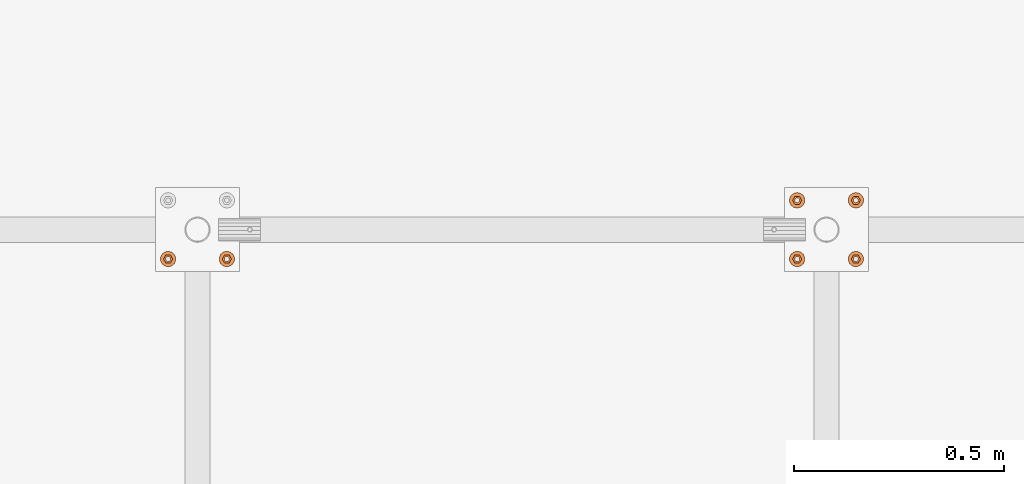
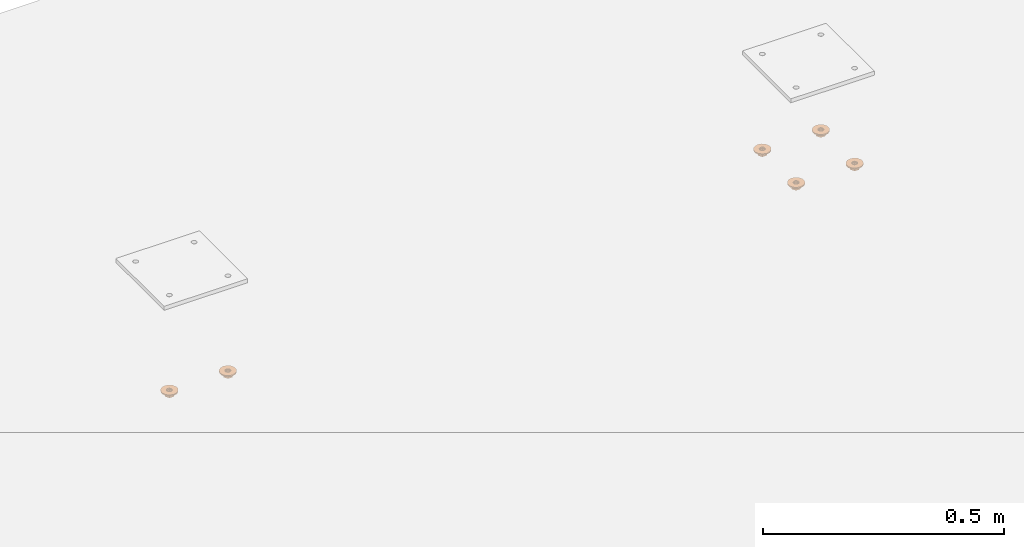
# One storey, part 24 of 30: 12 proxies.
"""IFC2X3 building model written with IfcOpenShell, lengths in millimetres."""

from ifc_helpers import new_model, entity, si_unit, converted_unit, origin_with_axes, place, context, project, spatial, faceted_brep, material, element, save


model = new_model("IFC2X3")

# Units and contexts
model_context = context("Model", 3, precision=1e-09, world=origin_with_axes())
ifc_project = project(units=[si_unit("LENGTHUNIT", "METRE", prefix="MILLI"), si_unit("AREAUNIT", "SQUARE_METRE"), si_unit("VOLUMEUNIT", "CUBIC_METRE"), converted_unit("PLANEANGLEUNIT", "DEGREE", entity("IfcPlaneAngleMeasure", 0.01745329), si_unit("PLANEANGLEUNIT", "RADIAN"), dimensions=[0, 0, 0, 0, 0, 0, 0])], contexts=[model_context])

# Site, building, storey
site_placement = place(None, origin_with_axes())
site = spatial("IfcSite", under=ifc_project, at=site_placement, Name="M?nsinger Stra?e, 81477 M?nchen", CompositionType="ELEMENT")
building_placement = place(site_placement, origin_with_axes())
building = spatial("IfcBuilding", under=site, at=building_placement, Name="Struktur 1", CompositionType="ELEMENT")
storey_placement = place(building_placement, origin_with_axes())
storey = spatial("IfcBuildingStorey", under=building, at=storey_placement, Name="Default Storey", CompositionType="ELEMENT", Elevation=0.0)

# Proxies
ifc_material = material(Name="Kein")
proxy_1_placement = place(None, origin_with_axes())
element("IfcBuildingElementProxy", 1, at=proxy_1_placement, inside=storey, material=ifc_material, ObjectType="-", context=model_context, shape_type="Brep", body=[
    faceted_brep([(2836.315117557, 4427.2632594, 6512.0), (2836.315117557, 4427.2632594, 6502.0), (2839.315117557, 4426.459411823, 6502.0), (2839.315117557, 4426.459411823, 6512.0), (2841.51126998, 4424.2632594, 6502.0), (2841.51126998, 4424.2632594, 6512.0), (2833.315117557, 4426.459411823, 6512.0), (2833.315117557, 4426.459411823, 6502.0), (2830.83029, 4430.7632594, 6512.0), (2825.345462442, 4421.2632594, 6512.0), (2830.83029, 4411.7632594, 6512.0), (2841.799945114, 4411.7632594, 6512.0), (2847.284772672, 4421.2632594, 6512.0), (2841.799945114, 4430.7632594, 6512.0), (2831.118965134, 4424.2632594, 6512.0), (2842.315117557, 4421.2632594, 6512.0), (2841.51126998, 4418.2632594, 6512.0), (2839.315117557, 4416.067106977, 6512.0), (2836.315117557, 4415.2632594, 6512.0), (2833.315117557, 4416.067106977, 6512.0), (2831.118965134, 4418.2632594, 6512.0), (2830.315117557, 4421.2632594, 6512.0), (2825.345462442, 4421.2632594, 6502.0), (2830.83029, 4430.7632594, 6502.0), (2841.799945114, 4430.7632594, 6502.0), (2847.284772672, 4421.2632594, 6502.0), (2841.799945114, 4411.7632594, 6502.0), (2830.83029, 4411.7632594, 6502.0), (2831.118965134, 4424.2632594, 6502.0), (2830.315117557, 4421.2632594, 6502.0), (2831.118965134, 4418.2632594, 6502.0), (2833.315117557, 4416.067106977, 6502.0), (2836.315117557, 4415.2632594, 6502.0), (2839.315117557, 4416.067106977, 6502.0), (2841.51126998, 4418.2632594, 6502.0), (2842.315117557, 4421.2632594, 6502.0)], [[[0, 1, 2, 3]], [[3, 2, 4, 5]], [[1, 0, 6, 7]], [[8, 9, 10, 11, 12, 13], [14, 6, 0, 3, 5, 15, 16, 17, 18, 19, 20, 21]], [[22, 23, 24, 25, 26, 27], [1, 7, 28, 29, 30, 31, 32, 33, 34, 35, 4, 2]], [[7, 6, 14, 28]], [[24, 23, 8, 13]], [[5, 4, 35, 15]], [[13, 12, 25, 24]], [[28, 14, 21, 29]], [[23, 22, 9, 8]], [[15, 35, 34, 16]], [[12, 11, 26, 25]], [[29, 21, 20, 30]], [[22, 27, 10, 9]], [[16, 34, 33, 17]], [[27, 26, 11, 10]], [[30, 20, 19, 31]], [[17, 33, 32, 18]], [[31, 19, 18, 32]]]),
])
proxy_2_placement = place(None, origin_with_axes())
element("IfcBuildingElementProxy", 2, at=proxy_2_placement, inside=storey, material=ifc_material, ObjectType="-", context=model_context, shape_type="Brep", body=[
    faceted_brep([(2850.778999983, 4432.797820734, 6515.0), (2850.778999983, 4432.797820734, 6512.0), (2844.341966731, 4437.931183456, 6512.0), (2844.341966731, 4437.931183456, 6515.0), (2854.351283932, 4417.146622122, 6515.0), (2854.351283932, 4425.379896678, 6515.0), (2836.315117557, 4439.7632594, 6515.0), (2828.288268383, 4437.931183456, 6515.0), (2821.851235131, 4432.797820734, 6515.0), (2818.278951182, 4425.379896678, 6515.0), (2818.278951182, 4417.146622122, 6515.0), (2821.851235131, 4409.728698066, 6515.0), (2828.288268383, 4404.595335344, 6515.0), (2836.315117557, 4402.7632594, 6515.0), (2844.341966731, 4404.595335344, 6515.0), (2850.778999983, 4409.728698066, 6515.0), (2841.944282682, 4424.5132594, 6515.0), (2842.815117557, 4421.2632594, 6515.0), (2841.944282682, 4418.0132594, 6515.0), (2839.565117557, 4415.634094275, 6515.0), (2836.315117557, 4414.7632594, 6515.0), (2833.065117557, 4415.634094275, 6515.0), (2830.685952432, 4418.0132594, 6515.0), (2829.815117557, 4421.2632594, 6515.0), (2830.685952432, 4424.5132594, 6515.0), (2833.065117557, 4426.892424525, 6515.0), (2836.315117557, 4427.7632594, 6515.0), (2839.565117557, 4426.892424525, 6515.0), (2828.288268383, 4437.931183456, 6512.0), (2836.315117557, 4439.7632594, 6512.0), (2854.351283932, 4425.379896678, 6512.0), (2854.351283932, 4417.146622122, 6512.0), (2850.778999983, 4409.728698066, 6512.0), (2844.341966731, 4404.595335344, 6512.0), (2836.315117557, 4402.7632594, 6512.0), (2828.288268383, 4404.595335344, 6512.0), (2821.851235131, 4409.728698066, 6512.0), (2818.278951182, 4417.146622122, 6512.0), (2818.278951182, 4425.379896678, 6512.0), (2821.851235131, 4432.797820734, 6512.0), (2836.315117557, 4427.7632594, 6512.0), (2833.065117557, 4426.892424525, 6512.0), (2830.685952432, 4424.5132594, 6512.0), (2829.815117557, 4421.2632594, 6512.0), (2830.685952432, 4418.0132594, 6512.0), (2833.065117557, 4415.634094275, 6512.0), (2836.315117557, 4414.7632594, 6512.0), (2839.565117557, 4415.634094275, 6512.0), (2841.944282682, 4418.0132594, 6512.0), (2842.815117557, 4421.2632594, 6512.0), (2841.944282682, 4424.5132594, 6512.0), (2839.565117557, 4426.892424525, 6512.0)], [[[0, 1, 2, 3]], [[4, 5, 0, 3, 6, 7, 8, 9, 10, 11, 12, 13, 14, 15], [16, 17, 18, 19, 20, 21, 22, 23, 24, 25, 26, 27]], [[28, 29, 2, 1, 30, 31, 32, 33, 34, 35, 36, 37, 38, 39], [40, 41, 42, 43, 44, 45, 46, 47, 48, 49, 50, 51]], [[1, 0, 5, 30]], [[27, 51, 50, 16]], [[51, 27, 26, 40]], [[3, 2, 29, 6]], [[30, 5, 4, 31]], [[16, 50, 49, 17]], [[40, 26, 25, 41]], [[6, 29, 28, 7]], [[31, 4, 15, 32]], [[17, 49, 48, 18]], [[41, 25, 24, 42]], [[7, 28, 39, 8]], [[32, 15, 14, 33]], [[18, 48, 47, 19]], [[42, 24, 23, 43]], [[8, 39, 38, 9]], [[33, 14, 13, 34]], [[19, 47, 46, 20]], [[22, 44, 43, 23]], [[9, 38, 37, 10]], [[45, 21, 20, 46]], [[44, 22, 21, 45]], [[34, 13, 12, 35]], [[10, 37, 36, 11]], [[35, 12, 11, 36]]]),
])
proxy_3_placement = place(None, origin_with_axes())
element("IfcBuildingElementProxy", 3, at=proxy_3_placement, inside=storey, material=ifc_material, ObjectType="-", context=model_context, shape_type="Brep", body=[
    faceted_brep([(2990.778999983, 4432.797820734, 6515.0), (2990.778999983, 4432.797820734, 6512.0), (2984.341966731, 4437.931183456, 6512.0), (2984.341966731, 4437.931183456, 6515.0), (2994.351283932, 4417.146622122, 6515.0), (2994.351283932, 4425.379896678, 6515.0), (2976.315117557, 4439.7632594, 6515.0), (2968.288268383, 4437.931183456, 6515.0), (2961.851235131, 4432.797820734, 6515.0), (2958.278951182, 4425.379896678, 6515.0), (2958.278951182, 4417.146622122, 6515.0), (2961.851235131, 4409.728698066, 6515.0), (2968.288268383, 4404.595335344, 6515.0), (2976.315117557, 4402.7632594, 6515.0), (2984.341966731, 4404.595335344, 6515.0), (2990.778999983, 4409.728698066, 6515.0), (2981.944282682, 4424.5132594, 6515.0), (2982.815117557, 4421.2632594, 6515.0), (2981.944282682, 4418.0132594, 6515.0), (2979.565117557, 4415.634094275, 6515.0), (2976.315117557, 4414.7632594, 6515.0), (2973.065117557, 4415.634094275, 6515.0), (2970.685952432, 4418.0132594, 6515.0), (2969.815117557, 4421.2632594, 6515.0), (2970.685952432, 4424.5132594, 6515.0), (2973.065117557, 4426.892424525, 6515.0), (2976.315117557, 4427.7632594, 6515.0), (2979.565117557, 4426.892424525, 6515.0), (2968.288268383, 4437.931183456, 6512.0), (2976.315117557, 4439.7632594, 6512.0), (2994.351283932, 4425.379896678, 6512.0), (2994.351283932, 4417.146622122, 6512.0), (2990.778999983, 4409.728698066, 6512.0), (2984.341966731, 4404.595335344, 6512.0), (2976.315117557, 4402.7632594, 6512.0), (2968.288268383, 4404.595335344, 6512.0), (2961.851235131, 4409.728698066, 6512.0), (2958.278951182, 4417.146622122, 6512.0), (2958.278951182, 4425.379896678, 6512.0), (2961.851235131, 4432.797820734, 6512.0), (2976.315117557, 4427.7632594, 6512.0), (2973.065117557, 4426.892424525, 6512.0), (2970.685952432, 4424.5132594, 6512.0), (2969.815117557, 4421.2632594, 6512.0), (2970.685952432, 4418.0132594, 6512.0), (2973.065117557, 4415.634094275, 6512.0), (2976.315117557, 4414.7632594, 6512.0), (2979.565117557, 4415.634094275, 6512.0), (2981.944282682, 4418.0132594, 6512.0), (2982.815117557, 4421.2632594, 6512.0), (2981.944282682, 4424.5132594, 6512.0), (2979.565117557, 4426.892424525, 6512.0)], [[[0, 1, 2, 3]], [[4, 5, 0, 3, 6, 7, 8, 9, 10, 11, 12, 13, 14, 15], [16, 17, 18, 19, 20, 21, 22, 23, 24, 25, 26, 27]], [[28, 29, 2, 1, 30, 31, 32, 33, 34, 35, 36, 37, 38, 39], [40, 41, 42, 43, 44, 45, 46, 47, 48, 49, 50, 51]], [[1, 0, 5, 30]], [[27, 51, 50, 16]], [[51, 27, 26, 40]], [[3, 2, 29, 6]], [[30, 5, 4, 31]], [[16, 50, 49, 17]], [[40, 26, 25, 41]], [[6, 29, 28, 7]], [[31, 4, 15, 32]], [[17, 49, 48, 18]], [[41, 25, 24, 42]], [[7, 28, 39, 8]], [[32, 15, 14, 33]], [[18, 48, 47, 19]], [[42, 24, 23, 43]], [[8, 39, 38, 9]], [[33, 14, 13, 34]], [[19, 47, 46, 20]], [[22, 44, 43, 23]], [[9, 38, 37, 10]], [[45, 21, 20, 46]], [[44, 22, 21, 45]], [[34, 13, 12, 35]], [[10, 37, 36, 11]], [[35, 12, 11, 36]]]),
])
proxy_4_placement = place(None, origin_with_axes())
element("IfcBuildingElementProxy", 4, at=proxy_4_placement, inside=storey, material=ifc_material, ObjectType="-", context=model_context, shape_type="Brep", body=[
    faceted_brep([(2976.315117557, 4427.2632594, 6512.0), (2976.315117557, 4427.2632594, 6502.0), (2979.315117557, 4426.459411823, 6502.0), (2979.315117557, 4426.459411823, 6512.0), (2981.51126998, 4424.2632594, 6502.0), (2981.51126998, 4424.2632594, 6512.0), (2973.315117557, 4426.459411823, 6512.0), (2973.315117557, 4426.459411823, 6502.0), (2970.83029, 4430.7632594, 6512.0), (2965.345462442, 4421.2632594, 6512.0), (2970.83029, 4411.7632594, 6512.0), (2981.799945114, 4411.7632594, 6512.0), (2987.284772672, 4421.2632594, 6512.0), (2981.799945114, 4430.7632594, 6512.0), (2971.118965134, 4424.2632594, 6512.0), (2982.315117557, 4421.2632594, 6512.0), (2981.51126998, 4418.2632594, 6512.0), (2979.315117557, 4416.067106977, 6512.0), (2976.315117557, 4415.2632594, 6512.0), (2973.315117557, 4416.067106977, 6512.0), (2971.118965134, 4418.2632594, 6512.0), (2970.315117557, 4421.2632594, 6512.0), (2965.345462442, 4421.2632594, 6502.0), (2970.83029, 4430.7632594, 6502.0), (2981.799945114, 4430.7632594, 6502.0), (2987.284772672, 4421.2632594, 6502.0), (2981.799945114, 4411.7632594, 6502.0), (2970.83029, 4411.7632594, 6502.0), (2971.118965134, 4424.2632594, 6502.0), (2970.315117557, 4421.2632594, 6502.0), (2971.118965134, 4418.2632594, 6502.0), (2973.315117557, 4416.067106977, 6502.0), (2976.315117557, 4415.2632594, 6502.0), (2979.315117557, 4416.067106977, 6502.0), (2981.51126998, 4418.2632594, 6502.0), (2982.315117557, 4421.2632594, 6502.0)], [[[0, 1, 2, 3]], [[3, 2, 4, 5]], [[1, 0, 6, 7]], [[8, 9, 10, 11, 12, 13], [14, 6, 0, 3, 5, 15, 16, 17, 18, 19, 20, 21]], [[22, 23, 24, 25, 26, 27], [1, 7, 28, 29, 30, 31, 32, 33, 34, 35, 4, 2]], [[7, 6, 14, 28]], [[24, 23, 8, 13]], [[5, 4, 35, 15]], [[13, 12, 25, 24]], [[28, 14, 21, 29]], [[23, 22, 9, 8]], [[15, 35, 34, 16]], [[12, 11, 26, 25]], [[29, 21, 20, 30]], [[22, 27, 10, 9]], [[16, 34, 33, 17]], [[27, 26, 11, 10]], [[30, 20, 19, 31]], [[17, 33, 32, 18]], [[31, 19, 18, 32]]]),
])
proxy_5_placement = place(None, origin_with_axes())
element("IfcBuildingElementProxy", 5, at=proxy_5_placement, inside=storey, material=ifc_material, ObjectType="-", context=model_context, shape_type="Brep", body=[
    faceted_brep([(4490.778999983, 4572.797820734, 6515.0), (4490.778999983, 4572.797820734, 6512.0), (4484.341966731, 4577.931183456, 6512.0), (4484.341966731, 4577.931183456, 6515.0), (4494.351283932, 4557.146622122, 6515.0), (4494.351283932, 4565.379896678, 6515.0), (4476.315117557, 4579.7632594, 6515.0), (4468.288268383, 4577.931183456, 6515.0), (4461.851235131, 4572.797820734, 6515.0), (4458.278951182, 4565.379896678, 6515.0), (4458.278951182, 4557.146622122, 6515.0), (4461.851235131, 4549.728698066, 6515.0), (4468.288268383, 4544.595335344, 6515.0), (4476.315117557, 4542.7632594, 6515.0), (4484.341966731, 4544.595335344, 6515.0), (4490.778999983, 4549.728698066, 6515.0), (4481.944282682, 4564.5132594, 6515.0), (4482.815117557, 4561.2632594, 6515.0), (4481.944282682, 4558.0132594, 6515.0), (4479.565117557, 4555.634094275, 6515.0), (4476.315117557, 4554.7632594, 6515.0), (4473.065117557, 4555.634094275, 6515.0), (4470.685952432, 4558.0132594, 6515.0), (4469.815117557, 4561.2632594, 6515.0), (4470.685952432, 4564.5132594, 6515.0), (4473.065117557, 4566.892424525, 6515.0), (4476.315117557, 4567.7632594, 6515.0), (4479.565117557, 4566.892424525, 6515.0), (4468.288268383, 4577.931183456, 6512.0), (4476.315117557, 4579.7632594, 6512.0), (4494.351283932, 4565.379896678, 6512.0), (4494.351283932, 4557.146622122, 6512.0), (4490.778999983, 4549.728698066, 6512.0), (4484.341966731, 4544.595335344, 6512.0), (4476.315117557, 4542.7632594, 6512.0), (4468.288268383, 4544.595335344, 6512.0), (4461.851235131, 4549.728698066, 6512.0), (4458.278951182, 4557.146622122, 6512.0), (4458.278951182, 4565.379896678, 6512.0), (4461.851235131, 4572.797820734, 6512.0), (4476.315117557, 4567.7632594, 6512.0), (4473.065117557, 4566.892424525, 6512.0), (4470.685952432, 4564.5132594, 6512.0), (4469.815117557, 4561.2632594, 6512.0), (4470.685952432, 4558.0132594, 6512.0), (4473.065117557, 4555.634094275, 6512.0), (4476.315117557, 4554.7632594, 6512.0), (4479.565117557, 4555.634094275, 6512.0), (4481.944282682, 4558.0132594, 6512.0), (4482.815117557, 4561.2632594, 6512.0), (4481.944282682, 4564.5132594, 6512.0), (4479.565117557, 4566.892424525, 6512.0)], [[[0, 1, 2, 3]], [[4, 5, 0, 3, 6, 7, 8, 9, 10, 11, 12, 13, 14, 15], [16, 17, 18, 19, 20, 21, 22, 23, 24, 25, 26, 27]], [[28, 29, 2, 1, 30, 31, 32, 33, 34, 35, 36, 37, 38, 39], [40, 41, 42, 43, 44, 45, 46, 47, 48, 49, 50, 51]], [[1, 0, 5, 30]], [[27, 51, 50, 16]], [[51, 27, 26, 40]], [[3, 2, 29, 6]], [[30, 5, 4, 31]], [[16, 50, 49, 17]], [[40, 26, 25, 41]], [[6, 29, 28, 7]], [[31, 4, 15, 32]], [[17, 49, 48, 18]], [[41, 25, 24, 42]], [[7, 28, 39, 8]], [[32, 15, 14, 33]], [[18, 48, 47, 19]], [[42, 24, 23, 43]], [[8, 39, 38, 9]], [[33, 14, 13, 34]], [[19, 47, 46, 20]], [[22, 44, 43, 23]], [[9, 38, 37, 10]], [[45, 21, 20, 46]], [[44, 22, 21, 45]], [[34, 13, 12, 35]], [[10, 37, 36, 11]], [[35, 12, 11, 36]]]),
])
proxy_6_placement = place(None, origin_with_axes())
element("IfcBuildingElementProxy", 6, at=proxy_6_placement, inside=storey, material=ifc_material, ObjectType="-", context=model_context, shape_type="Brep", body=[
    faceted_brep([(4476.315117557, 4567.2632594, 6512.0), (4476.315117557, 4567.2632594, 6502.0), (4479.315117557, 4566.459411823, 6502.0), (4479.315117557, 4566.459411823, 6512.0), (4481.51126998, 4564.2632594, 6502.0), (4481.51126998, 4564.2632594, 6512.0), (4473.315117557, 4566.459411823, 6512.0), (4473.315117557, 4566.459411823, 6502.0), (4470.83029, 4570.7632594, 6512.0), (4465.345462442, 4561.2632594, 6512.0), (4470.83029, 4551.7632594, 6512.0), (4481.799945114, 4551.7632594, 6512.0), (4487.284772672, 4561.2632594, 6512.0), (4481.799945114, 4570.7632594, 6512.0), (4471.118965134, 4564.2632594, 6512.0), (4482.315117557, 4561.2632594, 6512.0), (4481.51126998, 4558.2632594, 6512.0), (4479.315117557, 4556.067106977, 6512.0), (4476.315117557, 4555.2632594, 6512.0), (4473.315117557, 4556.067106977, 6512.0), (4471.118965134, 4558.2632594, 6512.0), (4470.315117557, 4561.2632594, 6512.0), (4465.345462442, 4561.2632594, 6502.0), (4470.83029, 4570.7632594, 6502.0), (4481.799945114, 4570.7632594, 6502.0), (4487.284772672, 4561.2632594, 6502.0), (4481.799945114, 4551.7632594, 6502.0), (4470.83029, 4551.7632594, 6502.0), (4471.118965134, 4564.2632594, 6502.0), (4470.315117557, 4561.2632594, 6502.0), (4471.118965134, 4558.2632594, 6502.0), (4473.315117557, 4556.067106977, 6502.0), (4476.315117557, 4555.2632594, 6502.0), (4479.315117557, 4556.067106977, 6502.0), (4481.51126998, 4558.2632594, 6502.0), (4482.315117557, 4561.2632594, 6502.0)], [[[0, 1, 2, 3]], [[3, 2, 4, 5]], [[1, 0, 6, 7]], [[8, 9, 10, 11, 12, 13], [14, 6, 0, 3, 5, 15, 16, 17, 18, 19, 20, 21]], [[22, 23, 24, 25, 26, 27], [1, 7, 28, 29, 30, 31, 32, 33, 34, 35, 4, 2]], [[7, 6, 14, 28]], [[24, 23, 8, 13]], [[5, 4, 35, 15]], [[13, 12, 25, 24]], [[28, 14, 21, 29]], [[23, 22, 9, 8]], [[15, 35, 34, 16]], [[12, 11, 26, 25]], [[29, 21, 20, 30]], [[22, 27, 10, 9]], [[16, 34, 33, 17]], [[27, 26, 11, 10]], [[30, 20, 19, 31]], [[17, 33, 32, 18]], [[31, 19, 18, 32]]]),
])
proxy_7_placement = place(None, origin_with_axes())
element("IfcBuildingElementProxy", 7, at=proxy_7_placement, inside=storey, material=ifc_material, ObjectType="-", context=model_context, shape_type="Brep", body=[
    faceted_brep([(4476.315117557, 4427.2632594, 6512.0), (4476.315117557, 4427.2632594, 6502.0), (4479.315117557, 4426.459411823, 6502.0), (4479.315117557, 4426.459411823, 6512.0), (4481.51126998, 4424.2632594, 6502.0), (4481.51126998, 4424.2632594, 6512.0), (4473.315117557, 4426.459411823, 6512.0), (4473.315117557, 4426.459411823, 6502.0), (4470.83029, 4430.7632594, 6512.0), (4465.345462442, 4421.2632594, 6512.0), (4470.83029, 4411.7632594, 6512.0), (4481.799945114, 4411.7632594, 6512.0), (4487.284772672, 4421.2632594, 6512.0), (4481.799945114, 4430.7632594, 6512.0), (4471.118965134, 4424.2632594, 6512.0), (4482.315117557, 4421.2632594, 6512.0), (4481.51126998, 4418.2632594, 6512.0), (4479.315117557, 4416.067106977, 6512.0), (4476.315117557, 4415.2632594, 6512.0), (4473.315117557, 4416.067106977, 6512.0), (4471.118965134, 4418.2632594, 6512.0), (4470.315117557, 4421.2632594, 6512.0), (4465.345462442, 4421.2632594, 6502.0), (4470.83029, 4430.7632594, 6502.0), (4481.799945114, 4430.7632594, 6502.0), (4487.284772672, 4421.2632594, 6502.0), (4481.799945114, 4411.7632594, 6502.0), (4470.83029, 4411.7632594, 6502.0), (4471.118965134, 4424.2632594, 6502.0), (4470.315117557, 4421.2632594, 6502.0), (4471.118965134, 4418.2632594, 6502.0), (4473.315117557, 4416.067106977, 6502.0), (4476.315117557, 4415.2632594, 6502.0), (4479.315117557, 4416.067106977, 6502.0), (4481.51126998, 4418.2632594, 6502.0), (4482.315117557, 4421.2632594, 6502.0)], [[[0, 1, 2, 3]], [[3, 2, 4, 5]], [[1, 0, 6, 7]], [[8, 9, 10, 11, 12, 13], [14, 6, 0, 3, 5, 15, 16, 17, 18, 19, 20, 21]], [[22, 23, 24, 25, 26, 27], [1, 7, 28, 29, 30, 31, 32, 33, 34, 35, 4, 2]], [[7, 6, 14, 28]], [[24, 23, 8, 13]], [[5, 4, 35, 15]], [[13, 12, 25, 24]], [[28, 14, 21, 29]], [[23, 22, 9, 8]], [[15, 35, 34, 16]], [[12, 11, 26, 25]], [[29, 21, 20, 30]], [[22, 27, 10, 9]], [[16, 34, 33, 17]], [[27, 26, 11, 10]], [[30, 20, 19, 31]], [[17, 33, 32, 18]], [[31, 19, 18, 32]]]),
])
proxy_8_placement = place(None, origin_with_axes())
element("IfcBuildingElementProxy", 8, at=proxy_8_placement, inside=storey, material=ifc_material, ObjectType="-", context=model_context, shape_type="Brep", body=[
    faceted_brep([(4490.778999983, 4432.797820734, 6515.0), (4490.778999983, 4432.797820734, 6512.0), (4484.341966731, 4437.931183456, 6512.0), (4484.341966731, 4437.931183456, 6515.0), (4494.351283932, 4417.146622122, 6515.0), (4494.351283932, 4425.379896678, 6515.0), (4476.315117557, 4439.7632594, 6515.0), (4468.288268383, 4437.931183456, 6515.0), (4461.851235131, 4432.797820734, 6515.0), (4458.278951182, 4425.379896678, 6515.0), (4458.278951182, 4417.146622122, 6515.0), (4461.851235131, 4409.728698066, 6515.0), (4468.288268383, 4404.595335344, 6515.0), (4476.315117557, 4402.7632594, 6515.0), (4484.341966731, 4404.595335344, 6515.0), (4490.778999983, 4409.728698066, 6515.0), (4481.944282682, 4424.5132594, 6515.0), (4482.815117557, 4421.2632594, 6515.0), (4481.944282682, 4418.0132594, 6515.0), (4479.565117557, 4415.634094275, 6515.0), (4476.315117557, 4414.7632594, 6515.0), (4473.065117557, 4415.634094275, 6515.0), (4470.685952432, 4418.0132594, 6515.0), (4469.815117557, 4421.2632594, 6515.0), (4470.685952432, 4424.5132594, 6515.0), (4473.065117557, 4426.892424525, 6515.0), (4476.315117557, 4427.7632594, 6515.0), (4479.565117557, 4426.892424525, 6515.0), (4468.288268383, 4437.931183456, 6512.0), (4476.315117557, 4439.7632594, 6512.0), (4494.351283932, 4425.379896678, 6512.0), (4494.351283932, 4417.146622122, 6512.0), (4490.778999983, 4409.728698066, 6512.0), (4484.341966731, 4404.595335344, 6512.0), (4476.315117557, 4402.7632594, 6512.0), (4468.288268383, 4404.595335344, 6512.0), (4461.851235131, 4409.728698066, 6512.0), (4458.278951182, 4417.146622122, 6512.0), (4458.278951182, 4425.379896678, 6512.0), (4461.851235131, 4432.797820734, 6512.0), (4476.315117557, 4427.7632594, 6512.0), (4473.065117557, 4426.892424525, 6512.0), (4470.685952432, 4424.5132594, 6512.0), (4469.815117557, 4421.2632594, 6512.0), (4470.685952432, 4418.0132594, 6512.0), (4473.065117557, 4415.634094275, 6512.0), (4476.315117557, 4414.7632594, 6512.0), (4479.565117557, 4415.634094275, 6512.0), (4481.944282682, 4418.0132594, 6512.0), (4482.815117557, 4421.2632594, 6512.0), (4481.944282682, 4424.5132594, 6512.0), (4479.565117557, 4426.892424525, 6512.0)], [[[0, 1, 2, 3]], [[4, 5, 0, 3, 6, 7, 8, 9, 10, 11, 12, 13, 14, 15], [16, 17, 18, 19, 20, 21, 22, 23, 24, 25, 26, 27]], [[28, 29, 2, 1, 30, 31, 32, 33, 34, 35, 36, 37, 38, 39], [40, 41, 42, 43, 44, 45, 46, 47, 48, 49, 50, 51]], [[1, 0, 5, 30]], [[27, 51, 50, 16]], [[51, 27, 26, 40]], [[3, 2, 29, 6]], [[30, 5, 4, 31]], [[16, 50, 49, 17]], [[40, 26, 25, 41]], [[6, 29, 28, 7]], [[31, 4, 15, 32]], [[17, 49, 48, 18]], [[41, 25, 24, 42]], [[7, 28, 39, 8]], [[32, 15, 14, 33]], [[18, 48, 47, 19]], [[42, 24, 23, 43]], [[8, 39, 38, 9]], [[33, 14, 13, 34]], [[19, 47, 46, 20]], [[22, 44, 43, 23]], [[9, 38, 37, 10]], [[45, 21, 20, 46]], [[44, 22, 21, 45]], [[34, 13, 12, 35]], [[10, 37, 36, 11]], [[35, 12, 11, 36]]]),
])
proxy_9_placement = place(None, origin_with_axes())
element("IfcBuildingElementProxy", 9, at=proxy_9_placement, inside=storey, material=ifc_material, ObjectType="-", context=model_context, shape_type="Brep", body=[
    faceted_brep([(4350.778999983, 4432.797820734, 6515.0), (4350.778999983, 4432.797820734, 6512.0), (4344.341966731, 4437.931183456, 6512.0), (4344.341966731, 4437.931183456, 6515.0), (4354.351283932, 4417.146622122, 6515.0), (4354.351283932, 4425.379896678, 6515.0), (4336.315117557, 4439.7632594, 6515.0), (4328.288268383, 4437.931183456, 6515.0), (4321.851235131, 4432.797820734, 6515.0), (4318.278951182, 4425.379896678, 6515.0), (4318.278951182, 4417.146622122, 6515.0), (4321.851235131, 4409.728698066, 6515.0), (4328.288268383, 4404.595335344, 6515.0), (4336.315117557, 4402.7632594, 6515.0), (4344.341966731, 4404.595335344, 6515.0), (4350.778999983, 4409.728698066, 6515.0), (4341.944282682, 4424.5132594, 6515.0), (4342.815117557, 4421.2632594, 6515.0), (4341.944282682, 4418.0132594, 6515.0), (4339.565117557, 4415.634094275, 6515.0), (4336.315117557, 4414.7632594, 6515.0), (4333.065117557, 4415.634094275, 6515.0), (4330.685952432, 4418.0132594, 6515.0), (4329.815117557, 4421.2632594, 6515.0), (4330.685952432, 4424.5132594, 6515.0), (4333.065117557, 4426.892424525, 6515.0), (4336.315117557, 4427.7632594, 6515.0), (4339.565117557, 4426.892424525, 6515.0), (4328.288268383, 4437.931183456, 6512.0), (4336.315117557, 4439.7632594, 6512.0), (4354.351283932, 4425.379896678, 6512.0), (4354.351283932, 4417.146622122, 6512.0), (4350.778999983, 4409.728698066, 6512.0), (4344.341966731, 4404.595335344, 6512.0), (4336.315117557, 4402.7632594, 6512.0), (4328.288268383, 4404.595335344, 6512.0), (4321.851235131, 4409.728698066, 6512.0), (4318.278951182, 4417.146622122, 6512.0), (4318.278951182, 4425.379896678, 6512.0), (4321.851235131, 4432.797820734, 6512.0), (4336.315117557, 4427.7632594, 6512.0), (4333.065117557, 4426.892424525, 6512.0), (4330.685952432, 4424.5132594, 6512.0), (4329.815117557, 4421.2632594, 6512.0), (4330.685952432, 4418.0132594, 6512.0), (4333.065117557, 4415.634094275, 6512.0), (4336.315117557, 4414.7632594, 6512.0), (4339.565117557, 4415.634094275, 6512.0), (4341.944282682, 4418.0132594, 6512.0), (4342.815117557, 4421.2632594, 6512.0), (4341.944282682, 4424.5132594, 6512.0), (4339.565117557, 4426.892424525, 6512.0)], [[[0, 1, 2, 3]], [[4, 5, 0, 3, 6, 7, 8, 9, 10, 11, 12, 13, 14, 15], [16, 17, 18, 19, 20, 21, 22, 23, 24, 25, 26, 27]], [[28, 29, 2, 1, 30, 31, 32, 33, 34, 35, 36, 37, 38, 39], [40, 41, 42, 43, 44, 45, 46, 47, 48, 49, 50, 51]], [[1, 0, 5, 30]], [[27, 51, 50, 16]], [[51, 27, 26, 40]], [[3, 2, 29, 6]], [[30, 5, 4, 31]], [[16, 50, 49, 17]], [[40, 26, 25, 41]], [[6, 29, 28, 7]], [[31, 4, 15, 32]], [[17, 49, 48, 18]], [[41, 25, 24, 42]], [[7, 28, 39, 8]], [[32, 15, 14, 33]], [[18, 48, 47, 19]], [[42, 24, 23, 43]], [[8, 39, 38, 9]], [[33, 14, 13, 34]], [[19, 47, 46, 20]], [[22, 44, 43, 23]], [[9, 38, 37, 10]], [[45, 21, 20, 46]], [[44, 22, 21, 45]], [[34, 13, 12, 35]], [[10, 37, 36, 11]], [[35, 12, 11, 36]]]),
])
proxy_10_placement = place(None, origin_with_axes())
element("IfcBuildingElementProxy", 10, at=proxy_10_placement, inside=storey, material=ifc_material, ObjectType="-", context=model_context, shape_type="Brep", body=[
    faceted_brep([(4336.315117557, 4427.2632594, 6512.0), (4336.315117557, 4427.2632594, 6502.0), (4339.315117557, 4426.459411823, 6502.0), (4339.315117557, 4426.459411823, 6512.0), (4341.51126998, 4424.2632594, 6502.0), (4341.51126998, 4424.2632594, 6512.0), (4333.315117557, 4426.459411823, 6512.0), (4333.315117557, 4426.459411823, 6502.0), (4330.83029, 4430.7632594, 6512.0), (4325.345462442, 4421.2632594, 6512.0), (4330.83029, 4411.7632594, 6512.0), (4341.799945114, 4411.7632594, 6512.0), (4347.284772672, 4421.2632594, 6512.0), (4341.799945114, 4430.7632594, 6512.0), (4331.118965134, 4424.2632594, 6512.0), (4342.315117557, 4421.2632594, 6512.0), (4341.51126998, 4418.2632594, 6512.0), (4339.315117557, 4416.067106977, 6512.0), (4336.315117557, 4415.2632594, 6512.0), (4333.315117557, 4416.067106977, 6512.0), (4331.118965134, 4418.2632594, 6512.0), (4330.315117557, 4421.2632594, 6512.0), (4325.345462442, 4421.2632594, 6502.0), (4330.83029, 4430.7632594, 6502.0), (4341.799945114, 4430.7632594, 6502.0), (4347.284772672, 4421.2632594, 6502.0), (4341.799945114, 4411.7632594, 6502.0), (4330.83029, 4411.7632594, 6502.0), (4331.118965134, 4424.2632594, 6502.0), (4330.315117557, 4421.2632594, 6502.0), (4331.118965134, 4418.2632594, 6502.0), (4333.315117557, 4416.067106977, 6502.0), (4336.315117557, 4415.2632594, 6502.0), (4339.315117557, 4416.067106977, 6502.0), (4341.51126998, 4418.2632594, 6502.0), (4342.315117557, 4421.2632594, 6502.0)], [[[0, 1, 2, 3]], [[3, 2, 4, 5]], [[1, 0, 6, 7]], [[8, 9, 10, 11, 12, 13], [14, 6, 0, 3, 5, 15, 16, 17, 18, 19, 20, 21]], [[22, 23, 24, 25, 26, 27], [1, 7, 28, 29, 30, 31, 32, 33, 34, 35, 4, 2]], [[7, 6, 14, 28]], [[24, 23, 8, 13]], [[5, 4, 35, 15]], [[13, 12, 25, 24]], [[28, 14, 21, 29]], [[23, 22, 9, 8]], [[15, 35, 34, 16]], [[12, 11, 26, 25]], [[29, 21, 20, 30]], [[22, 27, 10, 9]], [[16, 34, 33, 17]], [[27, 26, 11, 10]], [[30, 20, 19, 31]], [[17, 33, 32, 18]], [[31, 19, 18, 32]]]),
])
proxy_11_placement = place(None, origin_with_axes())
element("IfcBuildingElementProxy", 11, at=proxy_11_placement, inside=storey, material=ifc_material, ObjectType="-", context=model_context, shape_type="Brep", body=[
    faceted_brep([(4336.315117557, 4567.2632594, 6512.0), (4336.315117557, 4567.2632594, 6502.0), (4339.315117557, 4566.459411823, 6502.0), (4339.315117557, 4566.459411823, 6512.0), (4341.51126998, 4564.2632594, 6502.0), (4341.51126998, 4564.2632594, 6512.0), (4333.315117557, 4566.459411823, 6512.0), (4333.315117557, 4566.459411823, 6502.0), (4330.83029, 4570.7632594, 6512.0), (4325.345462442, 4561.2632594, 6512.0), (4330.83029, 4551.7632594, 6512.0), (4341.799945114, 4551.7632594, 6512.0), (4347.284772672, 4561.2632594, 6512.0), (4341.799945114, 4570.7632594, 6512.0), (4331.118965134, 4564.2632594, 6512.0), (4342.315117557, 4561.2632594, 6512.0), (4341.51126998, 4558.2632594, 6512.0), (4339.315117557, 4556.067106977, 6512.0), (4336.315117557, 4555.2632594, 6512.0), (4333.315117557, 4556.067106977, 6512.0), (4331.118965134, 4558.2632594, 6512.0), (4330.315117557, 4561.2632594, 6512.0), (4325.345462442, 4561.2632594, 6502.0), (4330.83029, 4570.7632594, 6502.0), (4341.799945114, 4570.7632594, 6502.0), (4347.284772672, 4561.2632594, 6502.0), (4341.799945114, 4551.7632594, 6502.0), (4330.83029, 4551.7632594, 6502.0), (4331.118965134, 4564.2632594, 6502.0), (4330.315117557, 4561.2632594, 6502.0), (4331.118965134, 4558.2632594, 6502.0), (4333.315117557, 4556.067106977, 6502.0), (4336.315117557, 4555.2632594, 6502.0), (4339.315117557, 4556.067106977, 6502.0), (4341.51126998, 4558.2632594, 6502.0), (4342.315117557, 4561.2632594, 6502.0)], [[[0, 1, 2, 3]], [[3, 2, 4, 5]], [[1, 0, 6, 7]], [[8, 9, 10, 11, 12, 13], [14, 6, 0, 3, 5, 15, 16, 17, 18, 19, 20, 21]], [[22, 23, 24, 25, 26, 27], [1, 7, 28, 29, 30, 31, 32, 33, 34, 35, 4, 2]], [[7, 6, 14, 28]], [[24, 23, 8, 13]], [[5, 4, 35, 15]], [[13, 12, 25, 24]], [[28, 14, 21, 29]], [[23, 22, 9, 8]], [[15, 35, 34, 16]], [[12, 11, 26, 25]], [[29, 21, 20, 30]], [[22, 27, 10, 9]], [[16, 34, 33, 17]], [[27, 26, 11, 10]], [[30, 20, 19, 31]], [[17, 33, 32, 18]], [[31, 19, 18, 32]]]),
])
proxy_12_placement = place(None, origin_with_axes())
element("IfcBuildingElementProxy", 12, at=proxy_12_placement, inside=storey, material=ifc_material, ObjectType="-", context=model_context, shape_type="Brep", body=[
    faceted_brep([(4350.778999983, 4572.797820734, 6515.0), (4350.778999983, 4572.797820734, 6512.0), (4344.341966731, 4577.931183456, 6512.0), (4344.341966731, 4577.931183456, 6515.0), (4354.351283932, 4557.146622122, 6515.0), (4354.351283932, 4565.379896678, 6515.0), (4336.315117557, 4579.7632594, 6515.0), (4328.288268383, 4577.931183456, 6515.0), (4321.851235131, 4572.797820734, 6515.0), (4318.278951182, 4565.379896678, 6515.0), (4318.278951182, 4557.146622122, 6515.0), (4321.851235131, 4549.728698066, 6515.0), (4328.288268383, 4544.595335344, 6515.0), (4336.315117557, 4542.7632594, 6515.0), (4344.341966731, 4544.595335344, 6515.0), (4350.778999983, 4549.728698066, 6515.0), (4341.944282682, 4564.5132594, 6515.0), (4342.815117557, 4561.2632594, 6515.0), (4341.944282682, 4558.0132594, 6515.0), (4339.565117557, 4555.634094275, 6515.0), (4336.315117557, 4554.7632594, 6515.0), (4333.065117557, 4555.634094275, 6515.0), (4330.685952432, 4558.0132594, 6515.0), (4329.815117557, 4561.2632594, 6515.0), (4330.685952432, 4564.5132594, 6515.0), (4333.065117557, 4566.892424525, 6515.0), (4336.315117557, 4567.7632594, 6515.0), (4339.565117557, 4566.892424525, 6515.0), (4328.288268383, 4577.931183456, 6512.0), (4336.315117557, 4579.7632594, 6512.0), (4354.351283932, 4565.379896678, 6512.0), (4354.351283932, 4557.146622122, 6512.0), (4350.778999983, 4549.728698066, 6512.0), (4344.341966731, 4544.595335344, 6512.0), (4336.315117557, 4542.7632594, 6512.0), (4328.288268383, 4544.595335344, 6512.0), (4321.851235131, 4549.728698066, 6512.0), (4318.278951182, 4557.146622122, 6512.0), (4318.278951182, 4565.379896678, 6512.0), (4321.851235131, 4572.797820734, 6512.0), (4336.315117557, 4567.7632594, 6512.0), (4333.065117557, 4566.892424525, 6512.0), (4330.685952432, 4564.5132594, 6512.0), (4329.815117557, 4561.2632594, 6512.0), (4330.685952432, 4558.0132594, 6512.0), (4333.065117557, 4555.634094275, 6512.0), (4336.315117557, 4554.7632594, 6512.0), (4339.565117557, 4555.634094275, 6512.0), (4341.944282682, 4558.0132594, 6512.0), (4342.815117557, 4561.2632594, 6512.0), (4341.944282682, 4564.5132594, 6512.0), (4339.565117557, 4566.892424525, 6512.0)], [[[0, 1, 2, 3]], [[4, 5, 0, 3, 6, 7, 8, 9, 10, 11, 12, 13, 14, 15], [16, 17, 18, 19, 20, 21, 22, 23, 24, 25, 26, 27]], [[28, 29, 2, 1, 30, 31, 32, 33, 34, 35, 36, 37, 38, 39], [40, 41, 42, 43, 44, 45, 46, 47, 48, 49, 50, 51]], [[1, 0, 5, 30]], [[27, 51, 50, 16]], [[51, 27, 26, 40]], [[3, 2, 29, 6]], [[30, 5, 4, 31]], [[16, 50, 49, 17]], [[40, 26, 25, 41]], [[6, 29, 28, 7]], [[31, 4, 15, 32]], [[17, 49, 48, 18]], [[41, 25, 24, 42]], [[7, 28, 39, 8]], [[32, 15, 14, 33]], [[18, 48, 47, 19]], [[42, 24, 23, 43]], [[8, 39, 38, 9]], [[33, 14, 13, 34]], [[19, 47, 46, 20]], [[22, 44, 43, 23]], [[9, 38, 37, 10]], [[45, 21, 20, 46]], [[44, 22, 21, 45]], [[34, 13, 12, 35]], [[10, 37, 36, 11]], [[35, 12, 11, 36]]]),
])

save(model, "model.ifc")
